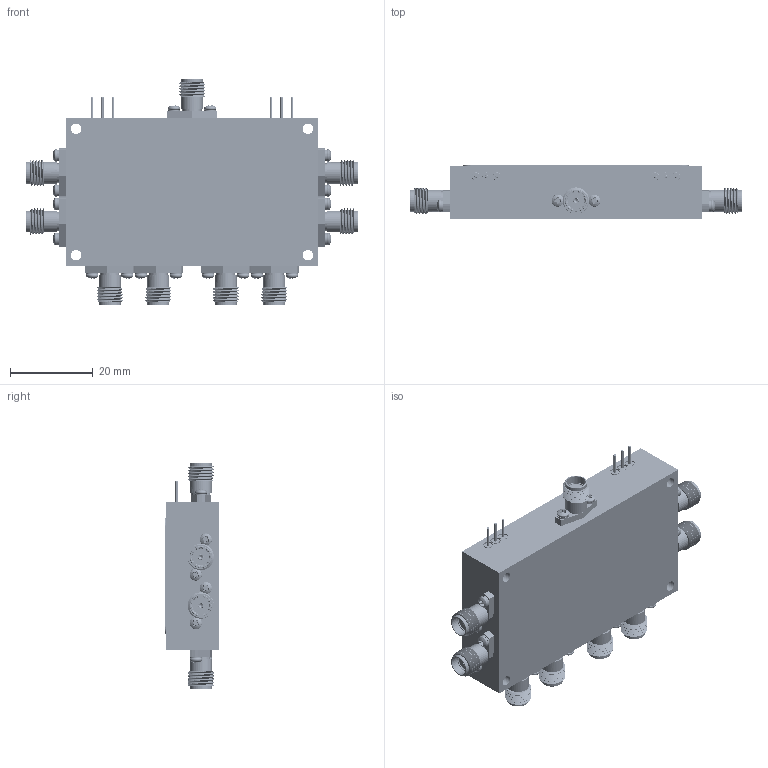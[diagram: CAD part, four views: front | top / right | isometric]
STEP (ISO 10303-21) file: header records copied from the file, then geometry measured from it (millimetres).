
FILE_DESCRIPTION (( 'STEP AP214' ), '1' );
FILE_NAME ('P8T-2G18G-30-R-SFF-QB.STEP', '2026-07-17T19:58:49', ( '' ), ( '' ), 'SwSTEP 2.0', 'SolidWorks 2025', '' );
FILE_SCHEMA (( 'AUTOMOTIVE_DESIGN' ));
Length unit declared in the file: millimetre
Products named in the file (1): P8T-2G18G-30-R-SFF-QB
Bounding box: 80.01 x 12.88 x 54.61 mm (x, y, z)
Volume: 35307 mm3; surface area: 24506.8 mm2
Topology: 103 solids, 103 shells, 3805 faces, 10409 edges, 7017 vertices
Faces by surface type: plane 1668, cylinder 1087, cone 546, torus 414, sphere 72, bspline 18
Entity records: 135111 total; most frequent: CARTESIAN_POINT 37936, ORIENTED_EDGE 20554, DIRECTION 19834, EDGE_CURVE 10277, AXIS2_PLACEMENT_3D 7717, VERTEX_POINT 7017, VECTOR 4400, LINE 4400
